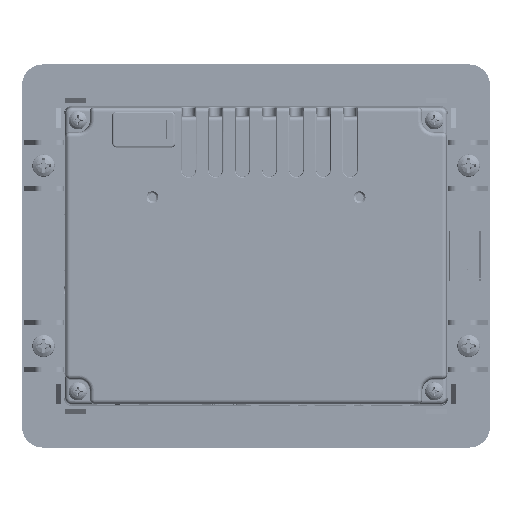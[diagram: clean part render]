
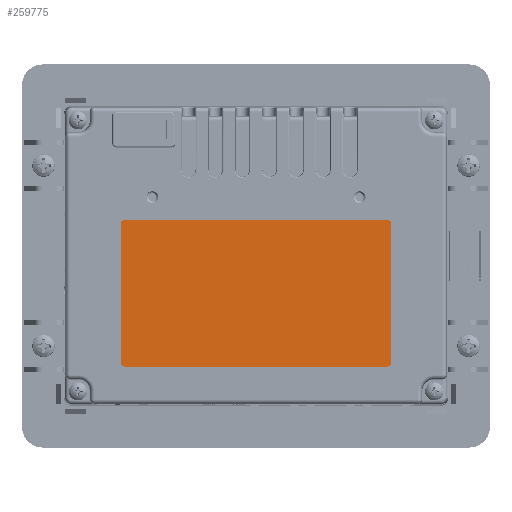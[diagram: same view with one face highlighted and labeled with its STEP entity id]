
A CAD part, top view. The second image highlights one B-rep face of the part: STEP entity #259775.
In plain terms, the highlighted planar face has unit normal (0, 0, 1).
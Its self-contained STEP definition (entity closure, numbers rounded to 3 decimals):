
#8186=LINE('',#410675,#39049);
#8190=LINE('',#410687,#39053);
#8193=LINE('',#410693,#39056);
#8194=LINE('',#410697,#39057);
#39049=VECTOR('',#341997,1000.);
#39053=VECTOR('',#342009,1000.);
#39056=VECTOR('',#342014,1000.);
#39057=VECTOR('',#342017,1000.);
#70048=ORIENTED_EDGE('',*,*,#149047,.T.);
#70049=ORIENTED_EDGE('',*,*,#149050,.T.);
#70050=ORIENTED_EDGE('',*,*,#149055,.T.);
#70051=ORIENTED_EDGE('',*,*,#149059,.F.);
#70052=ORIENTED_EDGE('',*,*,#149060,.F.);
#70053=ORIENTED_EDGE('',*,*,#149061,.F.);
#70054=ORIENTED_EDGE('',*,*,#149062,.F.);
#70055=ORIENTED_EDGE('',*,*,#149056,.F.);
#149047=EDGE_CURVE('',#188566,#188564,#214541,.T.);
#149050=EDGE_CURVE('',#188564,#188568,#8186,.T.);
#149055=EDGE_CURVE('',#188568,#188571,#214544,.T.);
#149056=EDGE_CURVE('',#188566,#188572,#8190,.T.);
#149059=EDGE_CURVE('',#188574,#188571,#8193,.T.);
#149060=EDGE_CURVE('',#188575,#188574,#214545,.T.);
#149061=EDGE_CURVE('',#188576,#188575,#8194,.T.);
#149062=EDGE_CURVE('',#188572,#188576,#214546,.T.);
#188564=VERTEX_POINT('',#410667);
#188566=VERTEX_POINT('',#410670);
#188568=VERTEX_POINT('',#410676);
#188571=VERTEX_POINT('',#410684);
#188572=VERTEX_POINT('',#410688);
#188574=VERTEX_POINT('',#410694);
#188575=VERTEX_POINT('',#410696);
#188576=VERTEX_POINT('',#410698);
#214541=CIRCLE('',#322939,1.27);
#214544=CIRCLE('',#322944,1.27);
#214545=CIRCLE('',#322947,1.27);
#214546=CIRCLE('',#322948,1.27);
#219651=EDGE_LOOP('',(#70048,#70049,#70050,#70051,#70052,#70053,#70054,
#70055));
#234694=FACE_BOUND('',#219651,.T.);
#249718=PLANE('',#322946);
#259775=ADVANCED_FACE('',(#234694),#249718,.T.);
#322939=AXIS2_PLACEMENT_3D('',#410669,#341990,#341991);
#322944=AXIS2_PLACEMENT_3D('',#410685,#342005,#342006);
#322946=AXIS2_PLACEMENT_3D('',#410692,#342012,#342013);
#322947=AXIS2_PLACEMENT_3D('',#410695,#342015,#342016);
#322948=AXIS2_PLACEMENT_3D('',#410699,#342018,#342019);
#341990=DIRECTION('',(0.,0.,1.));
#341991=DIRECTION('',(1.,0.,0.));
#341997=DIRECTION('',(1.,0.,0.));
#342005=DIRECTION('',(0.,0.,1.));
#342006=DIRECTION('',(1.,0.,0.));
#342009=DIRECTION('',(0.,1.,0.));
#342012=DIRECTION('',(0.,0.,1.));
#342013=DIRECTION('',(1.,0.,0.));
#342014=DIRECTION('',(0.,-1.,0.));
#342015=DIRECTION('',(0.,0.,-1.));
#342016=DIRECTION('',(1.,0.,0.));
#342017=DIRECTION('',(1.,0.,0.));
#342018=DIRECTION('',(0.,0.,-1.));
#342019=DIRECTION('',(1.,0.,0.));
#410667=CARTESIAN_POINT('',(23.686,16.97,32.893));
#410669=CARTESIAN_POINT('',(23.686,18.24,32.893));
#410670=CARTESIAN_POINT('',(22.416,18.24,32.893));
#410675=CARTESIAN_POINT('',(87.063,16.97,32.893));
#410676=CARTESIAN_POINT('',(104.204,16.97,32.893));
#410684=CARTESIAN_POINT('',(105.474,18.24,32.893));
#410685=CARTESIAN_POINT('',(104.204,18.24,32.893));
#410687=CARTESIAN_POINT('',(22.416,29.078,32.893));
#410688=CARTESIAN_POINT('',(22.416,60.658,32.893));
#410692=CARTESIAN_POINT('',(94.307,21.882,32.893));
#410693=CARTESIAN_POINT('',(105.474,29.078,32.893));
#410694=CARTESIAN_POINT('',(105.474,60.658,32.893));
#410695=CARTESIAN_POINT('',(104.204,60.658,32.893));
#410696=CARTESIAN_POINT('',(104.204,61.928,32.893));
#410697=CARTESIAN_POINT('',(87.063,61.928,32.893));
#410698=CARTESIAN_POINT('',(23.686,61.928,32.893));
#410699=CARTESIAN_POINT('',(23.686,60.658,32.893));
